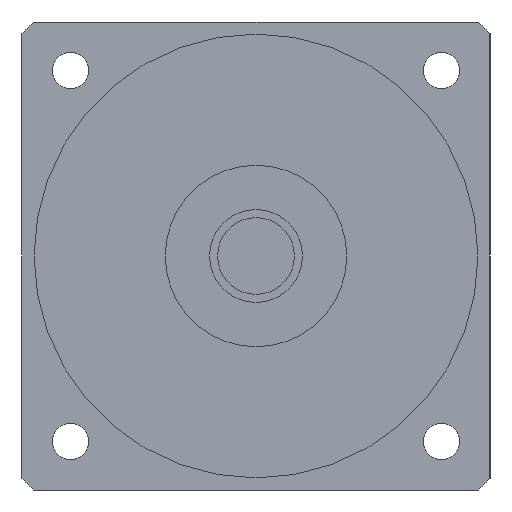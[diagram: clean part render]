
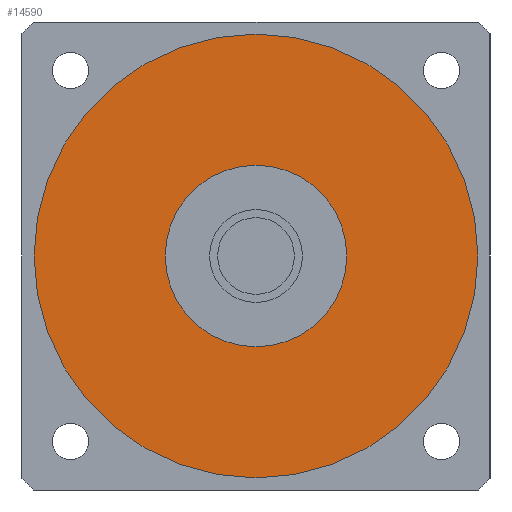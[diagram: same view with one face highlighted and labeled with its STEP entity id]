
A CAD part, left-side view. The second image highlights one B-rep face of the part: STEP entity #14590.
In plain terms, the highlighted planar face has unit normal (-1, 0, 0) as drawn and (0, 0, -1) by its records, which use the part's own axes.
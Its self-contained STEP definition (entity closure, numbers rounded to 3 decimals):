
#14010=CARTESIAN_POINT('',(55.,0.,-38.7));
#14020=VERTEX_POINT('',#14010);
#14110=CARTESIAN_POINT('',(-55.,0.,-38.7));
#14120=VERTEX_POINT('',#14110);
#14150=CARTESIAN_POINT('',(0.,0.,
-38.7));
#14160=DIRECTION('',(0.,0.,1.));
#14170=DIRECTION('',(0.,1.,0.));
#14180=AXIS2_PLACEMENT_3D('',#14150,#14160,#14170);
#14190=CIRCLE('',#14180,55.);
#14200=CARTESIAN_POINT('',(0.,55.,-38.7));
#14210=VERTEX_POINT('',#14200);
#14220=EDGE_CURVE('',#14210,#14120,#14190,.T.);
#14240=EDGE_CURVE('',#14020,#14210,#14190,.T.);
#14290=CARTESIAN_POINT('',(0.,0.,
-38.7));
#14300=DIRECTION('',(0.,0.,1.));
#14310=DIRECTION('',(-1.,0.,0.));
#14320=AXIS2_PLACEMENT_3D('',#14290,#14300,#14310);
#14330=PLANE('',#14320);
#14340=ORIENTED_EDGE('',*,*,#14220,.F.);
#14350=EDGE_CURVE('',#14120,#14020,#14190,.T.);
#14360=ORIENTED_EDGE('',*,*,#14350,.F.);
#14370=ORIENTED_EDGE('',*,*,#14240,.F.);
#14380=EDGE_LOOP('',(#14370,#14360,#14340));
#14390=FACE_OUTER_BOUND('',#14380,.T.);
#14400=CARTESIAN_POINT('',(0.,0.,
-38.7));
#14410=DIRECTION('',(0.,0.,1.));
#14420=DIRECTION('',(0.,1.,0.));
#14430=AXIS2_PLACEMENT_3D('',#14400,#14410,#14420);
#14440=CIRCLE('',#14430,22.5);
#14450=CARTESIAN_POINT('',(-22.5,0.,-38.7));
#14460=VERTEX_POINT('',#14450);
#14470=CARTESIAN_POINT('',(22.5,0.,-38.7));
#14480=VERTEX_POINT('',#14470);
#14490=EDGE_CURVE('',#14460,#14480,#14440,.T.);
#14500=ORIENTED_EDGE('',*,*,#14490,.T.);
#14510=CARTESIAN_POINT('',(0.,22.5,-38.7));
#14520=VERTEX_POINT('',#14510);
#14530=EDGE_CURVE('',#14520,#14460,#14440,.T.);
#14540=ORIENTED_EDGE('',*,*,#14530,.T.);
#14550=EDGE_CURVE('',#14480,#14520,#14440,.T.);
#14560=ORIENTED_EDGE('',*,*,#14550,.T.);
#14570=EDGE_LOOP('',(#14560,#14540,#14500));
#14580=FACE_BOUND('',#14570,.T.);
#14590=ADVANCED_FACE('',(#14390,#14580),#14330,.F.);
